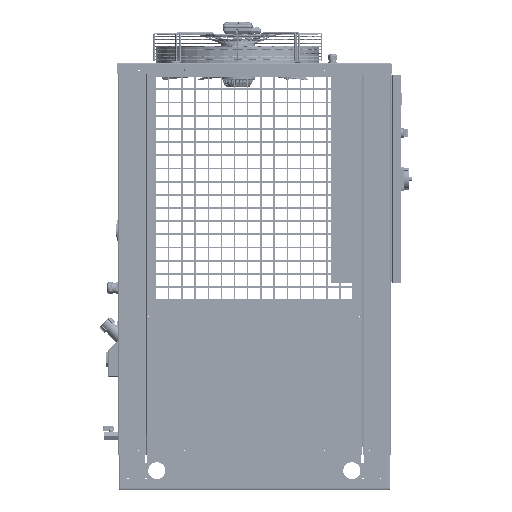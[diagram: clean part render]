
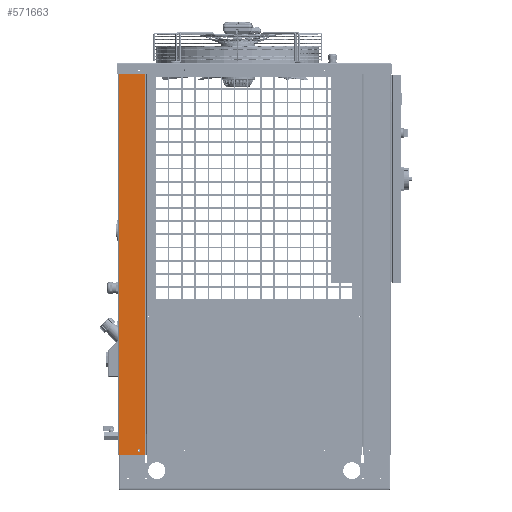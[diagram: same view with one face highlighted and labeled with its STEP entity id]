
A CAD part, top view. The second image highlights one B-rep face of the part: STEP entity #571663.
In plain terms, the highlighted planar face has unit normal (0, 0, 1).
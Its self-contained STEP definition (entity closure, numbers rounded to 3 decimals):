
#4148 = VECTOR ( 'NONE', #529756, 1000. ) ;
#11824 = CARTESIAN_POINT ( 'NONE',  ( 56.5, 1110.821, 0. ) ) ;
#12722 = CARTESIAN_POINT ( 'NONE',  ( 60., 12.5, 0. ) ) ;
#15210 = VECTOR ( 'NONE', #218572, 1000. ) ;
#18629 = CARTESIAN_POINT ( 'NONE',  ( 0., 1127.6, 0. ) ) ;
#30138 = DIRECTION ( 'NONE',  ( 0., 1., 0. ) ) ;
#34560 = EDGE_CURVE ( 'NONE', #421691, #190155, #39462, .T. ) ;
#35930 = CARTESIAN_POINT ( 'NONE',  ( 56.5, 1106.779, 0. ) ) ;
#37239 = CARTESIAN_POINT ( 'NONE',  ( 0., 1127.6, 0. ) ) ;
#39462 = LINE ( 'NONE', #380820, #391259 ) ;
#39654 = VECTOR ( 'NONE', #151604, 1000. ) ;
#41810 = EDGE_CURVE ( 'NONE', #76378, #504332, #134153, .T. ) ;
#47395 = EDGE_CURVE ( 'NONE', #190155, #76378, #562692, .T. ) ;
#47634 = CARTESIAN_POINT ( 'NONE',  ( 60., 1104.759, 0. ) ) ;
#51538 = VERTEX_POINT ( 'NONE', #187558 ) ;
#57067 = DIRECTION ( 'NONE',  ( 1., 0., 0. ) ) ;
#67888 = EDGE_CURVE ( 'NONE', #498450, #460867, #366024, .T. ) ;
#76378 = VERTEX_POINT ( 'NONE', #166276 ) ;
#91835 = DIRECTION ( 'NONE',  ( 0.866, 0.5, 0. ) ) ;
#93136 = DIRECTION ( 'NONE',  ( 0., -1., 0. ) ) ;
#96738 = ORIENTED_EDGE ( 'NONE', *, *, #376030, .F. ) ;
#97372 = VERTEX_POINT ( 'NONE', #329827 ) ;
#100681 = ORIENTED_EDGE ( 'NONE', *, *, #67888, .T. ) ;
#114888 = CARTESIAN_POINT ( 'NONE',  ( 60., 12.5, 0. ) ) ;
#121123 = FACE_OUTER_BOUND ( 'NONE', #408787, .T. ) ;
#134153 = LINE ( 'NONE', #11824, #444542 ) ;
#135590 = CARTESIAN_POINT ( 'NONE',  ( 63.5, 1106.779, 0. ) ) ;
#136180 = CIRCLE ( 'NONE', #280982, 3.5 ) ;
#147229 = EDGE_CURVE ( 'NONE', #51538, #538715, #517139, .T. ) ;
#149662 = CARTESIAN_POINT ( 'NONE',  ( 60., 1112.841, 0. ) ) ;
#151604 = DIRECTION ( 'NONE',  ( 1., 0., 0. ) ) ;
#159302 = DIRECTION ( 'NONE',  ( 1., 0., 0. ) ) ;
#159921 = VERTEX_POINT ( 'NONE', #563352 ) ;
#160946 = DIRECTION ( 'NONE',  ( -0.866, 0.5, 0. ) ) ;
#166276 = CARTESIAN_POINT ( 'NONE',  ( 56.5, 1110.821, 0. ) ) ;
#175482 = DIRECTION ( 'NONE',  ( 0., -1., 0. ) ) ;
#175764 = AXIS2_PLACEMENT_3D ( 'NONE', #114888, #423474, #159302 ) ;
#184391 = EDGE_CURVE ( 'NONE', #97372, #159921, #466581, .T. ) ;
#187558 = CARTESIAN_POINT ( 'NONE',  ( 77.6, 1127.6, 0. ) ) ;
#190155 = VERTEX_POINT ( 'NONE', #149662 ) ;
#192331 = LINE ( 'NONE', #382914, #295834 ) ;
#206475 = ORIENTED_EDGE ( 'NONE', *, *, #406011, .F. ) ;
#214540 = PLANE ( 'NONE',  #428341 ) ;
#214754 = CARTESIAN_POINT ( 'NONE',  ( 0., 0., 0. ) ) ;
#218572 = DIRECTION ( 'NONE',  ( 1., 0., 0. ) ) ;
#221361 = CARTESIAN_POINT ( 'NONE',  ( 60., 1112.841, 0. ) ) ;
#238488 = FACE_BOUND ( 'NONE', #462039, .T. ) ;
#248984 = VECTOR ( 'NONE', #91835, 1000. ) ;
#252979 = ORIENTED_EDGE ( 'NONE', *, *, #184391, .F. ) ;
#258859 = DIRECTION ( 'NONE',  ( 0., 0., -1. ) ) ;
#276941 = CARTESIAN_POINT ( 'NONE',  ( 2.4, 0., 0. ) ) ;
#277739 = VERTEX_POINT ( 'NONE', #135590 ) ;
#280982 = AXIS2_PLACEMENT_3D ( 'NONE', #12722, #321157, #57067 ) ;
#281246 = EDGE_CURVE ( 'NONE', #277739, #421691, #192331, .T. ) ;
#285648 = ORIENTED_EDGE ( 'NONE', *, *, #41810, .F. ) ;
#289118 = CARTESIAN_POINT ( 'NONE',  ( 63.5, 1110.821, 0. ) ) ;
#290145 = EDGE_CURVE ( 'NONE', #504332, #470354, #334576, .T. ) ;
#295834 = VECTOR ( 'NONE', #30138, 1000. ) ;
#300381 = CARTESIAN_POINT ( 'NONE',  ( 60., 1104.759, 0. ) ) ;
#321157 = DIRECTION ( 'NONE',  ( 0., 0., 1. ) ) ;
#324086 = DIRECTION ( 'NONE',  ( 0., -1., 0. ) ) ;
#325558 = ORIENTED_EDGE ( 'NONE', *, *, #281246, .F. ) ;
#329827 = CARTESIAN_POINT ( 'NONE',  ( 63.5, 12.5, 0. ) ) ;
#334576 = LINE ( 'NONE', #398778, #437994 ) ;
#366024 = LINE ( 'NONE', #399808, #483190 ) ;
#366314 = LINE ( 'NONE', #47634, #248984 ) ;
#369598 = FACE_BOUND ( 'NONE', #389916, .T. ) ;
#376030 = EDGE_CURVE ( 'NONE', #159921, #97372, #136180, .T. ) ;
#377686 = LINE ( 'NONE', #18629, #39654 ) ;
#380820 = CARTESIAN_POINT ( 'NONE',  ( 63.5, 1110.821, 0. ) ) ;
#380908 = LINE ( 'NONE', #214754, #15210 ) ;
#382914 = CARTESIAN_POINT ( 'NONE',  ( 63.5, 1106.779, 0. ) ) ;
#383629 = ORIENTED_EDGE ( 'NONE', *, *, #548940, .T. ) ;
#385956 = CARTESIAN_POINT ( 'NONE',  ( 77.6, 0., 0. ) ) ;
#389916 = EDGE_LOOP ( 'NONE', ( #206475, #403212, #285648, #544042, #441093, #325558 ) ) ;
#391259 = VECTOR ( 'NONE', #160946, 1000. ) ;
#398778 = CARTESIAN_POINT ( 'NONE',  ( 56.5, 1106.779, 0. ) ) ;
#399808 = CARTESIAN_POINT ( 'NONE',  ( 2.4, 1127.6, 0. ) ) ;
#400021 = VECTOR ( 'NONE', #175482, 1000. ) ;
#403212 = ORIENTED_EDGE ( 'NONE', *, *, #290145, .F. ) ;
#404472 = DIRECTION ( 'NONE',  ( 0.866, -0.5, 0. ) ) ;
#406011 = EDGE_CURVE ( 'NONE', #470354, #277739, #366314, .T. ) ;
#408787 = EDGE_LOOP ( 'NONE', ( #383629, #515774, #431216, #100681 ) ) ;
#421691 = VERTEX_POINT ( 'NONE', #289118 ) ;
#423474 = DIRECTION ( 'NONE',  ( 0., 0., 1. ) ) ;
#428341 = AXIS2_PLACEMENT_3D ( 'NONE', #37239, #258859, #567140 ) ;
#431216 = ORIENTED_EDGE ( 'NONE', *, *, #448641, .F. ) ;
#437994 = VECTOR ( 'NONE', #404472, 1000. ) ;
#439671 = CARTESIAN_POINT ( 'NONE',  ( 77.6, 1127.6, 0. ) ) ;
#441093 = ORIENTED_EDGE ( 'NONE', *, *, #34560, .F. ) ;
#444542 = VECTOR ( 'NONE', #324086, 1000. ) ;
#448641 = EDGE_CURVE ( 'NONE', #498450, #51538, #377686, .T. ) ;
#460867 = VERTEX_POINT ( 'NONE', #276941 ) ;
#462039 = EDGE_LOOP ( 'NONE', ( #252979, #96738 ) ) ;
#466581 = CIRCLE ( 'NONE', #175764, 3.5 ) ;
#470354 = VERTEX_POINT ( 'NONE', #300381 ) ;
#470801 = CARTESIAN_POINT ( 'NONE',  ( 2.4, 1127.6, 0. ) ) ;
#483190 = VECTOR ( 'NONE', #93136, 1000. ) ;
#498450 = VERTEX_POINT ( 'NONE', #470801 ) ;
#504332 = VERTEX_POINT ( 'NONE', #35930 ) ;
#515774 = ORIENTED_EDGE ( 'NONE', *, *, #147229, .F. ) ;
#517139 = LINE ( 'NONE', #439671, #400021 ) ;
#529756 = DIRECTION ( 'NONE',  ( -0.866, -0.5, 0. ) ) ;
#538715 = VERTEX_POINT ( 'NONE', #385956 ) ;
#544042 = ORIENTED_EDGE ( 'NONE', *, *, #47395, .F. ) ;
#548940 = EDGE_CURVE ( 'NONE', #460867, #538715, #380908, .T. ) ;
#562692 = LINE ( 'NONE', #221361, #4148 ) ;
#563352 = CARTESIAN_POINT ( 'NONE',  ( 56.5, 12.5, 0. ) ) ;
#567140 = DIRECTION ( 'NONE',  ( -1., 0., 0. ) ) ;
#571663 = ADVANCED_FACE ( 'NONE', ( #121123, #369598, #238488 ), #214540, .F. ) ;
